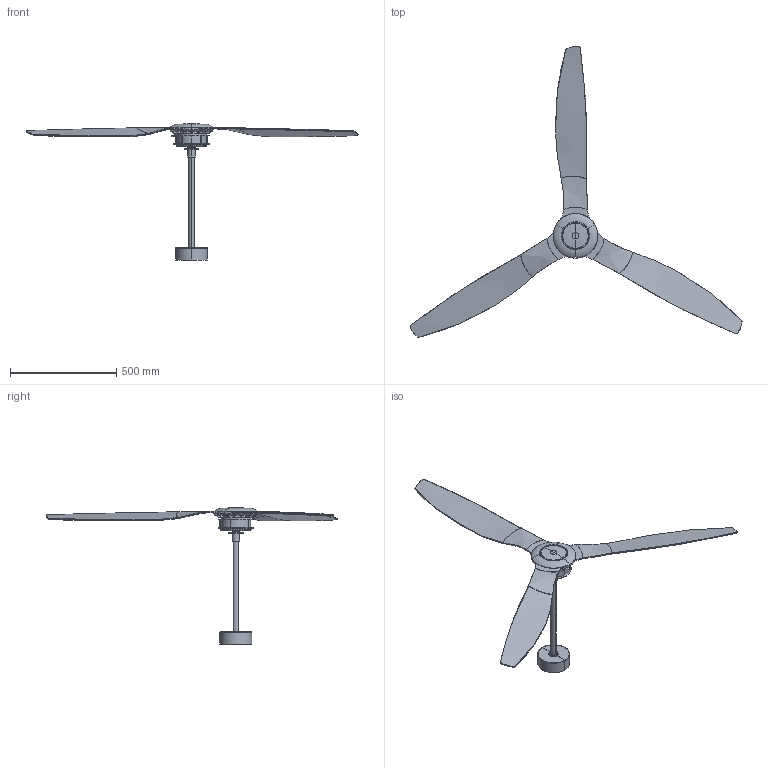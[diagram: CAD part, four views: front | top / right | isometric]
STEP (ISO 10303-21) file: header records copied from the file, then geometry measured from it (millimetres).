
FILE_DESCRIPTION(/* description */ (''),/* implementation_level */ '2;1');
FILE_NAME(/* name */ 'C:\Users\Franco Sartori E\Documents\FARO\DUPLICADO\Modelos\01_Digitalizados\2_Pendiente 2D\0_JUST FAN\03_Publicación\1780\33430W.stp',/* time_stamp */ '2020-08-20T10:01:01+02:00',/* author */ ('Franco Sartori E'),/* organization */ (''),/* preprocessor_version */ 'ST-DEVELOPER v18',/* originating_system */ 'AutoCAD Mechanical',/* authorisation */ '');
FILE_SCHEMA (('AUTOMOTIVE_DESIGN { 1 0 10303 214 3 1 1 }'));
Length unit declared in the file: millimetre
Products named in the file (2): Product; 33430_33432_JUSTFAN_motor - JUST FAN-460575-_3D_
Assembly tree (1 placements, depth 2):
  Product
    33430_33432_JUSTFAN_motor - JUST FAN-460575-_3D_
Bounding box: 1559.85 x 1365.87 x 640.8 mm (x, y, z)
Volume: 4217191.1 mm3; surface area: 1635005.4 mm2
Topology: 29 solids, 30 shells, 570 faces, 1504 edges, 968 vertices
Faces by surface type: cylinder 208, plane 188, bspline 107, torus 52, cone 13, sphere 2
Entity records: 28494 total; most frequent: CARTESIAN_POINT 15397, ORIENTED_EDGE 2920, DIRECTION 2290, EDGE_CURVE 1504, VERTEX_POINT 968, AXIS2_PLACEMENT_3D 867, EDGE_LOOP 606, FACE_OUTER_BOUND 570
